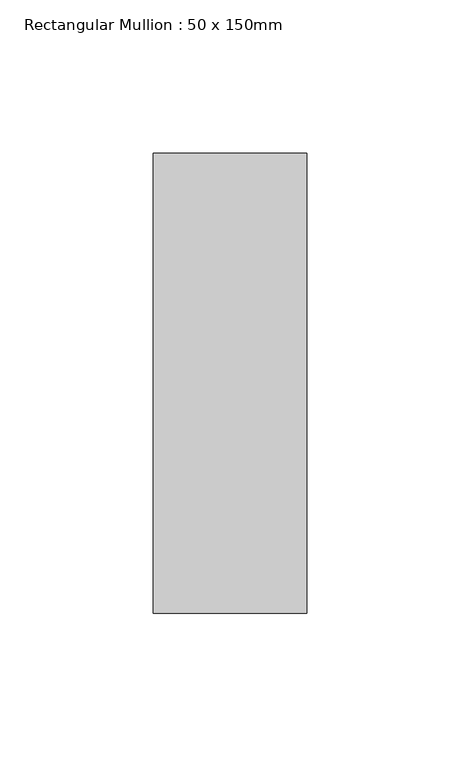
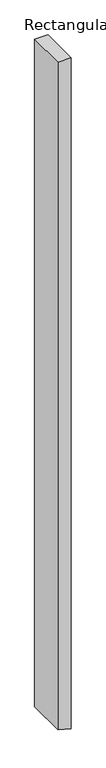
"""IFC4 building model written with IfcOpenShell, lengths in millimetres: member geometry, Rectangular Mullion : 50 x 150mm."""

from ifc_helpers import new_model, si_unit, frame, origin, place, context, project, spatial, polyline, outline, extrude, source, transform, mapped, element, save


def rectangular_mullion_50_x_150mm_666fa4ba(model_context):
    return source(origin(), model_context, "Body", "SweptSolid", [
        extrude(outline(polyline([(0.0, 0.0), (0.0, -50.0), (-2644.3115862, -50.0), (-2657.7090458, 0.0), (0.0, 0.0)])), frame((0.0, -75.0, 0.0), z_axis=(0.0, 1.0, 0.0), x_axis=(0.0, 0.0, 1.0)), (0.0, 0.0, 1.0), 150.0),
    ])


if __name__ == "__main__":
    model = new_model("IFC4")
    model_context = context("Model", 3, world=origin())
    ifc_project = project(units=[si_unit("LENGTHUNIT", "METRE", prefix="MILLI")], contexts=[model_context])
    site = spatial("IfcSite", under=ifc_project)
    building = spatial("IfcBuilding", under=site)
    placement = place(None, origin())
    rectangular_mullion_50_x_150mm_shape = rectangular_mullion_50_x_150mm_666fa4ba(model_context)
    element("IfcMember", 1, ObjectType="Rectangular Mullion : 50 x 150mm", at=placement, inside=building, context=model_context, shape_type="MappedRepresentation", body=[
        mapped(rectangular_mullion_50_x_150mm_shape, transform((0.0, 0.0, 0.0), x_axis=(1.0, 0.0, 0.0), y_axis=(0.0, 1.0, 0.0), z_axis=(0.0, 0.0, 1.0))),
    ])
    save(model, "model.ifc")
